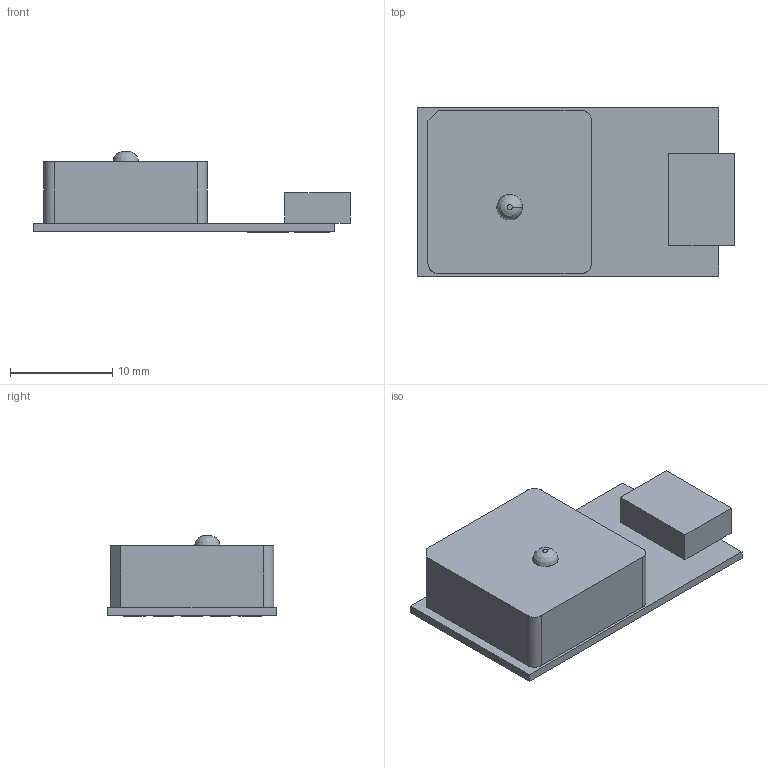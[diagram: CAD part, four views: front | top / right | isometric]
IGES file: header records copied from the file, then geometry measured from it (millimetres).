
Global section: file name: C:\Documents and Settings\Administrator\Desktop\mIGS.igs; native system: Rhinoceros ( Oct 30 2009 ); preprocessor: Trout Lake IGES 012 Oct 30 2009; date: 120521.163545; units: millimetre
Bounding box: 31 x 16.5 x 7.9 mm (x, y, z)
Surface area: 1565.4 mm2 (no closed solid volume)
Topology: 0 solids, 0 shells, 216 faces, 1278 edges, 1278 vertices
Faces by surface type: bspline 216
